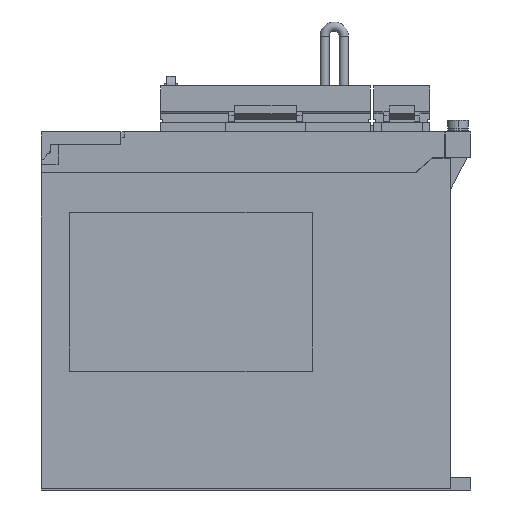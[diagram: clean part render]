
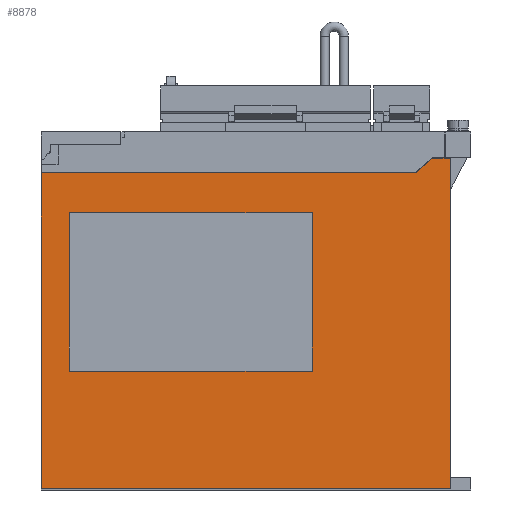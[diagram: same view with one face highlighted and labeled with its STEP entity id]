
A CAD part, left-side view. The second image highlights one B-rep face of the part: STEP entity #8878.
In plain terms, the highlighted planar face has unit normal (-1, 0, 0).
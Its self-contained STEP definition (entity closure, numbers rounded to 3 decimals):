
#6684 = VERTEX_POINT ( 'NONE', #29071 ) ;
#6686 = EDGE_CURVE ( 'NONE', #6684, #6687, #29140, .T. ) ;
#6687 = VERTEX_POINT ( 'NONE', #29136 ) ;
#7084 = VERTEX_POINT ( 'NONE', #29807 ) ;
#7123 = VERTEX_POINT ( 'NONE', #29869 ) ;
#7125 = EDGE_CURVE ( 'NONE', #7084, #7123, #29868, .T. ) ;
#8856 = ORIENTED_EDGE ( 'NONE', *, *, #8857, .F. ) ;
#8857 = EDGE_CURVE ( 'NONE', #8858, #8882, #32910, .T. ) ;
#8858 = VERTEX_POINT ( 'NONE', #32906 ) ;
#8859 = ORIENTED_EDGE ( 'NONE', *, *, #8860, .F. ) ;
#8860 = EDGE_CURVE ( 'NONE', #8861, #8858, #32905, .T. ) ;
#8861 = VERTEX_POINT ( 'NONE', #32901 ) ;
#8862 = ORIENTED_EDGE ( 'NONE', *, *, #8863, .F. ) ;
#8863 = EDGE_CURVE ( 'NONE', #8883, #8861, #32900, .T. ) ;
#8864 = EDGE_LOOP ( 'NONE', ( #8865, #8866, #8869, #8931, #8933, #8934 ) ) ;
#8865 = ORIENTED_EDGE ( 'NONE', *, *, #6686, .F. ) ;
#8866 = ORIENTED_EDGE ( 'NONE', *, *, #8867, .F. ) ;
#8867 = EDGE_CURVE ( 'NONE', #8868, #6684, #32896, .T. ) ;
#8868 = VERTEX_POINT ( 'NONE', #32892 ) ;
#8869 = ORIENTED_EDGE ( 'NONE', *, *, #8929, .F. ) ;
#8878 = ADVANCED_FACE ( 'NONE', ( #32942, #32941 ), #32940, .F. ) ;
#8879 = EDGE_LOOP ( 'NONE', ( #8880, #8856, #8859, #8862 ) ) ;
#8880 = ORIENTED_EDGE ( 'NONE', *, *, #8881, .F. ) ;
#8881 = EDGE_CURVE ( 'NONE', #8882, #8883, #32935, .T. ) ;
#8882 = VERTEX_POINT ( 'NONE', #32931 ) ;
#8883 = VERTEX_POINT ( 'NONE', #32930 ) ;
#8929 = EDGE_CURVE ( 'NONE', #8930, #8868, #32988, .T. ) ;
#8930 = VERTEX_POINT ( 'NONE', #32984 ) ;
#8931 = ORIENTED_EDGE ( 'NONE', *, *, #8932, .F. ) ;
#8932 = EDGE_CURVE ( 'NONE', #7084, #8930, #32983, .T. ) ;
#8933 = ORIENTED_EDGE ( 'NONE', *, *, #7125, .T. ) ;
#8934 = ORIENTED_EDGE ( 'NONE', *, *, #8935, .T. ) ;
#8935 = EDGE_CURVE ( 'NONE', #7123, #6687, #33051, .T. ) ;
#29071 = CARTESIAN_POINT ( 'NONE',  ( -35., -155., 129.8 ) ) ;
#29136 = CARTESIAN_POINT ( 'NONE',  ( -35., -155., 0.5 ) ) ;
#29137 = DIRECTION ( 'NONE',  ( 0., 0., -1. ) ) ;
#29138 = VECTOR ( 'NONE', #29137, 1000. ) ;
#29139 = CARTESIAN_POINT ( 'NONE',  ( -35., -155., 288.924 ) ) ;
#29140 = LINE ( 'NONE', #29139, #29138 ) ;
#29807 = CARTESIAN_POINT ( 'NONE',  ( -35., 5., 124. ) ) ;
#29865 = DIRECTION ( 'NONE',  ( 0., 0., -1. ) ) ;
#29866 = VECTOR ( 'NONE', #29865, 1000. ) ;
#29867 = CARTESIAN_POINT ( 'NONE',  ( -35., 5., 288.924 ) ) ;
#29868 = LINE ( 'NONE', #29867, #29866 ) ;
#29869 = CARTESIAN_POINT ( 'NONE',  ( -35., 5., 0.5 ) ) ;
#32892 = CARTESIAN_POINT ( 'NONE',  ( -35., -148., 129.8 ) ) ;
#32893 = DIRECTION ( 'NONE',  ( 0., -1., 0. ) ) ;
#32894 = VECTOR ( 'NONE', #32893, 1000. ) ;
#32895 = CARTESIAN_POINT ( 'NONE',  ( -35., -153., 129.8 ) ) ;
#32896 = LINE ( 'NONE', #32895, #32894 ) ;
#32897 = DIRECTION ( 'NONE',  ( 0., 1., 0. ) ) ;
#32898 = VECTOR ( 'NONE', #32897, 1000. ) ;
#32899 = CARTESIAN_POINT ( 'NONE',  ( -35., -6., 108.5 ) ) ;
#32900 = LINE ( 'NONE', #32899, #32898 ) ;
#32901 = CARTESIAN_POINT ( 'NONE',  ( -35., -6., 108.5 ) ) ;
#32902 = DIRECTION ( 'NONE',  ( 0., 0., -1. ) ) ;
#32903 = VECTOR ( 'NONE', #32902, 1000. ) ;
#32904 = CARTESIAN_POINT ( 'NONE',  ( -35., -6., 46.5 ) ) ;
#32905 = LINE ( 'NONE', #32904, #32903 ) ;
#32906 = CARTESIAN_POINT ( 'NONE',  ( -35., -6., 46.5 ) ) ;
#32907 = DIRECTION ( 'NONE',  ( 0., -1., 0. ) ) ;
#32908 = VECTOR ( 'NONE', #32907, 1000. ) ;
#32909 = CARTESIAN_POINT ( 'NONE',  ( -35., -6., 46.5 ) ) ;
#32910 = LINE ( 'NONE', #32909, #32908 ) ;
#32930 = CARTESIAN_POINT ( 'NONE',  ( -35., -101., 108.5 ) ) ;
#32931 = CARTESIAN_POINT ( 'NONE',  ( -35., -101., 46.5 ) ) ;
#32932 = DIRECTION ( 'NONE',  ( 0., 0., 1. ) ) ;
#32933 = VECTOR ( 'NONE', #32932, 1000. ) ;
#32934 = CARTESIAN_POINT ( 'NONE',  ( -35., -101., 46.5 ) ) ;
#32935 = LINE ( 'NONE', #32934, #32933 ) ;
#32936 = DIRECTION ( 'NONE',  ( 0., 0., -1. ) ) ;
#32937 = DIRECTION ( 'NONE',  ( 1., 0., 0. ) ) ;
#32938 = CARTESIAN_POINT ( 'NONE',  ( -35., 5., 288.924 ) ) ;
#32939 = AXIS2_PLACEMENT_3D ( 'NONE', #32938, #32937, #32936 ) ;
#32940 = PLANE ( 'NONE',  #32939 ) ;
#32941 = FACE_OUTER_BOUND ( 'NONE', #8864, .T. ) ;
#32942 = FACE_BOUND ( 'NONE', #8879, .T. ) ;
#32980 = DIRECTION ( 'NONE',  ( 0., -1., 0. ) ) ;
#32981 = VECTOR ( 'NONE', #32980, 1000. ) ;
#32982 = CARTESIAN_POINT ( 'NONE',  ( -35., 13.365, 124. ) ) ;
#32983 = LINE ( 'NONE', #32982, #32981 ) ;
#32984 = CARTESIAN_POINT ( 'NONE',  ( -35., -141.328, 124. ) ) ;
#32985 = DIRECTION ( 'NONE',  ( 0., -0.755, 0.656 ) ) ;
#32986 = VECTOR ( 'NONE', #32985, 1000. ) ;
#32987 = CARTESIAN_POINT ( 'NONE',  ( -35., -141.328, 124. ) ) ;
#32988 = LINE ( 'NONE', #32987, #32986 ) ;
#33047 = DIRECTION ( 'NONE',  ( 0., -1., 0. ) ) ;
#33048 = VECTOR ( 'NONE', #33047, 1000. ) ;
#33050 = CARTESIAN_POINT ( 'NONE',  ( -35., 5., 0.5 ) ) ;
#33051 = LINE ( 'NONE', #33050, #33048 ) ;
